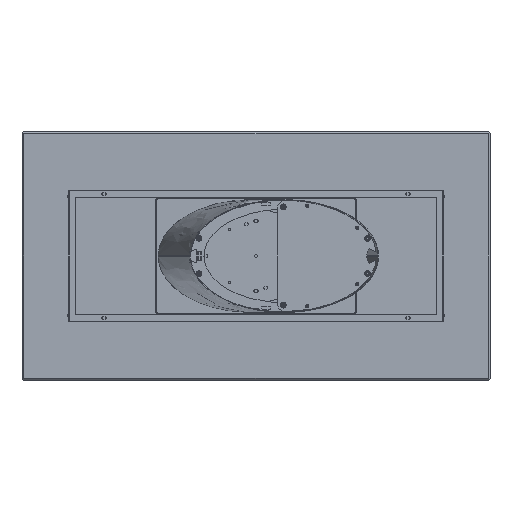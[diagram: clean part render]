
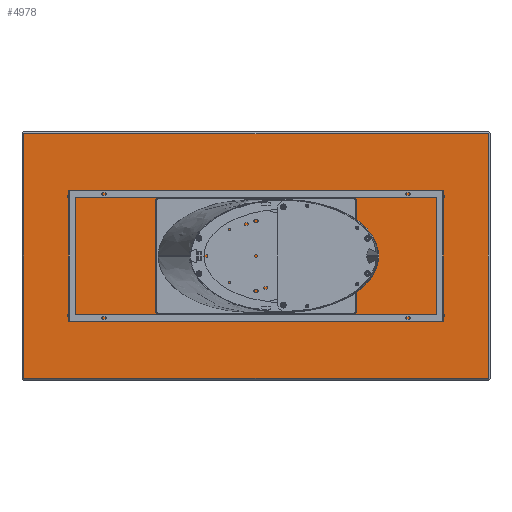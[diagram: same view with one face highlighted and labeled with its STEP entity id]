
A CAD part, front view. The second image highlights one B-rep face of the part: STEP entity #4978.
In plain terms, the highlighted planar face has unit normal (0, -1, 0).
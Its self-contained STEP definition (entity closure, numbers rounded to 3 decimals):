
#356 = CARTESIAN_POINT ( 'NONE',  ( 0., 0., 0. ) ) ;
#621 = VECTOR ( 'NONE', #706, 1000. ) ;
#706 = DIRECTION ( 'NONE',  ( 1., 0., 0. ) ) ;
#2777 = ORIENTED_EDGE ( 'NONE', *, *, #20256, .T. ) ;
#3452 = CARTESIAN_POINT ( 'NONE',  ( -992., 0., -522. ) ) ;
#4591 = PLANE ( 'NONE',  #17818 ) ;
#4978 = ADVANCED_FACE ( 'NONE', ( #10742 ), #4591, .F. ) ;
#5591 = VERTEX_POINT ( 'NONE', #12801 ) ;
#6711 = CARTESIAN_POINT ( 'NONE',  ( 992., 0., -522. ) ) ;
#7216 = DIRECTION ( 'NONE',  ( -1., 0., 0. ) ) ;
#7537 = DIRECTION ( 'NONE',  ( 0., 0., 1. ) ) ;
#7944 = LINE ( 'NONE', #26394, #25651 ) ;
#8701 = DIRECTION ( 'NONE',  ( 0., 1., 0. ) ) ;
#8959 = DIRECTION ( 'NONE',  ( 0., 0., -1. ) ) ;
#10742 = FACE_OUTER_BOUND ( 'NONE', #12724, .T. ) ;
#11253 = VERTEX_POINT ( 'NONE', #3452 ) ;
#11285 = CARTESIAN_POINT ( 'NONE',  ( -992., 0., 0. ) ) ;
#11527 = ORIENTED_EDGE ( 'NONE', *, *, #12259, .T. ) ;
#11594 = EDGE_CURVE ( 'NONE', #11253, #21430, #13168, .T. ) ;
#11958 = ORIENTED_EDGE ( 'NONE', *, *, #11594, .T. ) ;
#12259 = EDGE_CURVE ( 'NONE', #25782, #5591, #13773, .T. ) ;
#12724 = EDGE_LOOP ( 'NONE', ( #18099, #11527, #2777, #11958 ) ) ;
#12801 = CARTESIAN_POINT ( 'NONE',  ( -992., 0., 522. ) ) ;
#13168 = LINE ( 'NONE', #21501, #621 ) ;
#13773 = LINE ( 'NONE', #21725, #19454 ) ;
#14765 = EDGE_CURVE ( 'NONE', #21430, #25782, #7944, .T. ) ;
#15117 = CARTESIAN_POINT ( 'NONE',  ( 992., 0., 522. ) ) ;
#17818 = AXIS2_PLACEMENT_3D ( 'NONE', #356, #8701, #21271 ) ;
#18099 = ORIENTED_EDGE ( 'NONE', *, *, #14765, .T. ) ;
#19454 = VECTOR ( 'NONE', #7216, 1000. ) ;
#20256 = EDGE_CURVE ( 'NONE', #5591, #11253, #23720, .T. ) ;
#20457 = VECTOR ( 'NONE', #8959, 1000. ) ;
#21271 = DIRECTION ( 'NONE',  ( 0., 0., 1. ) ) ;
#21430 = VERTEX_POINT ( 'NONE', #6711 ) ;
#21501 = CARTESIAN_POINT ( 'NONE',  ( 0., 0., -522. ) ) ;
#21725 = CARTESIAN_POINT ( 'NONE',  ( 0., 0., 522. ) ) ;
#23720 = LINE ( 'NONE', #11285, #20457 ) ;
#25651 = VECTOR ( 'NONE', #7537, 1000. ) ;
#25782 = VERTEX_POINT ( 'NONE', #15117 ) ;
#26394 = CARTESIAN_POINT ( 'NONE',  ( 992., 0., 0. ) ) ;
